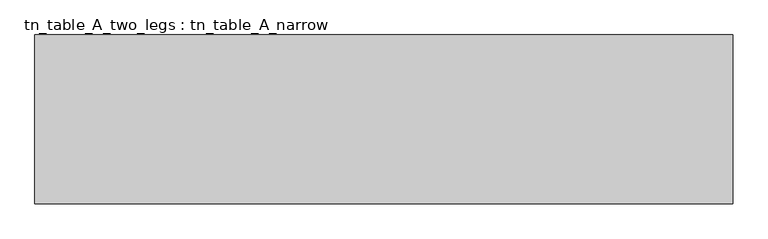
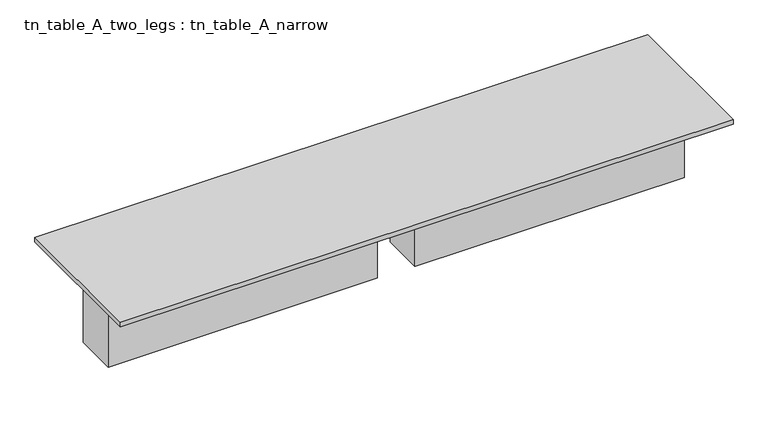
"""IFC4 building model written with IfcOpenShell, lengths in millimetres: furniture geometry, tn_table_A_two_legs : tn_table_A_narrow."""

from ifc_helpers import new_model, si_unit, frame, origin, origin_with_axes, place, context, project, spatial, polyline, outline, extrude, source, transform, mapped, element, save


def tn_table_a_two_legs_tn_table_a_narrow_15bdbce2(model_context):
    return source(origin(), model_context, "Body", "SweptSolid", [
        extrude(outline(polyline([(3442.5998209, 177.8), (3442.5998209, -177.8), (1225.9999105, -177.8), (1225.9999105, 177.8), (3442.5998209, 177.8)])), origin_with_axes(), (0.0, 0.0, 1.0), 673.1),
        extrude(outline(polyline([(921.1999105, 186.6425858), (921.1999105, -168.9574142), (-1295.4, -168.9574142), (-1295.4, 186.6425858), (921.1999105, 186.6425858)])), origin_with_axes(), (0.0, 0.0, 1.0), 673.1),
        extrude(outline(polyline([(3594.9998209, 609.6), (3594.9998209, -609.6), (-1447.8, -609.6), (-1447.8, 609.6), (3594.9998209, 609.6)])), frame((0.0, 0.0, 673.1), z_axis=(0.0, 0.0, 1.0), x_axis=(1.0, 0.0, 0.0)), (0.0, 0.0, 1.0), 38.1),
    ])


if __name__ == "__main__":
    model = new_model("IFC4")
    model_context = context("Model", 3, world=origin())
    ifc_project = project(units=[si_unit("LENGTHUNIT", "METRE", prefix="MILLI")], contexts=[model_context])
    site = spatial("IfcSite", under=ifc_project)
    building = spatial("IfcBuilding", under=site)
    placement = place(None, origin())
    tn_table_a_two_legs_tn_table_a_narrow_shape = tn_table_a_two_legs_tn_table_a_narrow_15bdbce2(model_context)
    element("IfcFurniture", 1, ObjectType="tn_table_A_two_legs : tn_table_A_narrow", at=placement, inside=building, context=model_context, shape_type="MappedRepresentation", body=[
        mapped(tn_table_a_two_legs_tn_table_a_narrow_shape, transform((0.0, 0.0, 0.0), x_axis=(1.0, 0.0, 0.0), y_axis=(0.0, 1.0, 0.0), z_axis=(0.0, 0.0, 1.0))),
    ])
    save(model, "model.ifc")
